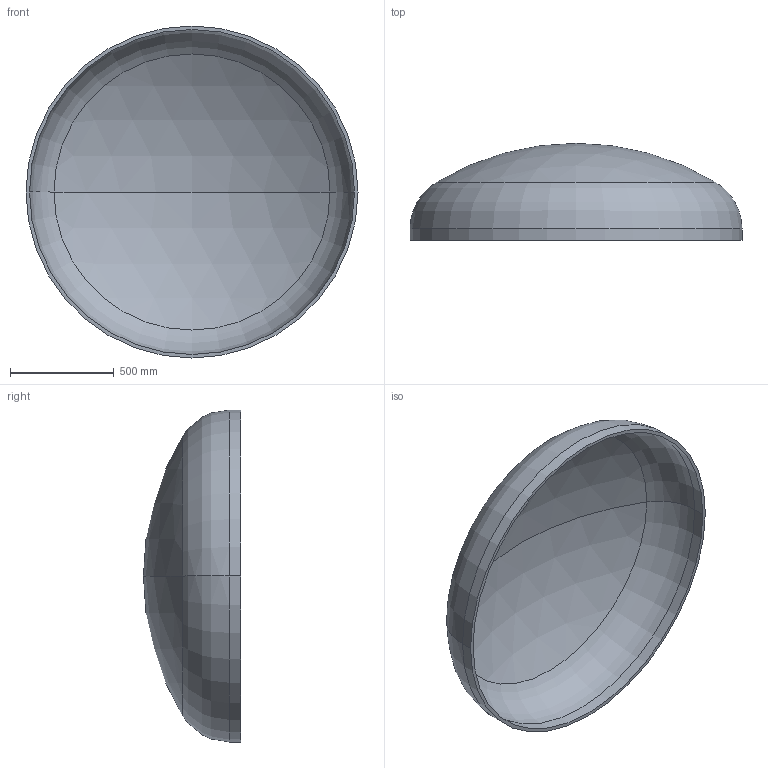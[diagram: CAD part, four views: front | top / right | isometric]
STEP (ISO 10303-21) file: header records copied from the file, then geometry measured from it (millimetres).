
FILE_DESCRIPTION (( 'STEP AP203' ), '1' );
FILE_NAME ('DIN 28013 Korbbogenform_-_Boden DIN 28013 - 1600 x 55 - I - s=17.step', '2016-07-01T11:07:11', ( '' ), ( '' ), 'SwSTEP 2.0', 'SolidWorks 2013', '' );
FILE_SCHEMA (( 'CONFIG_CONTROL_DESIGN' ));
Length unit declared in the file: millimetre
Products named in the file (1): DIN 28013 Korbbogenform_-_Boden DIN 28013 - 1600 x 55 - I - s=17
Bounding box: 1600 x 467.82 x 1600 mm (x, y, z)
Volume: 51276856.1 mm3; surface area: 6117717.8 mm2
Topology: 1 solids, 1 shells, 13 faces, 24 edges, 14 vertices
Faces by surface type: torus 4, cylinder 4, sphere 4, plane 1
Entity records: 407 total; most frequent: DIRECTION 72, CARTESIAN_POINT 52, ORIENTED_EDGE 48, AXIS2_PLACEMENT_3D 34, EDGE_CURVE 24, CIRCLE 20, EDGE_LOOP 14, VERTEX_POINT 14
